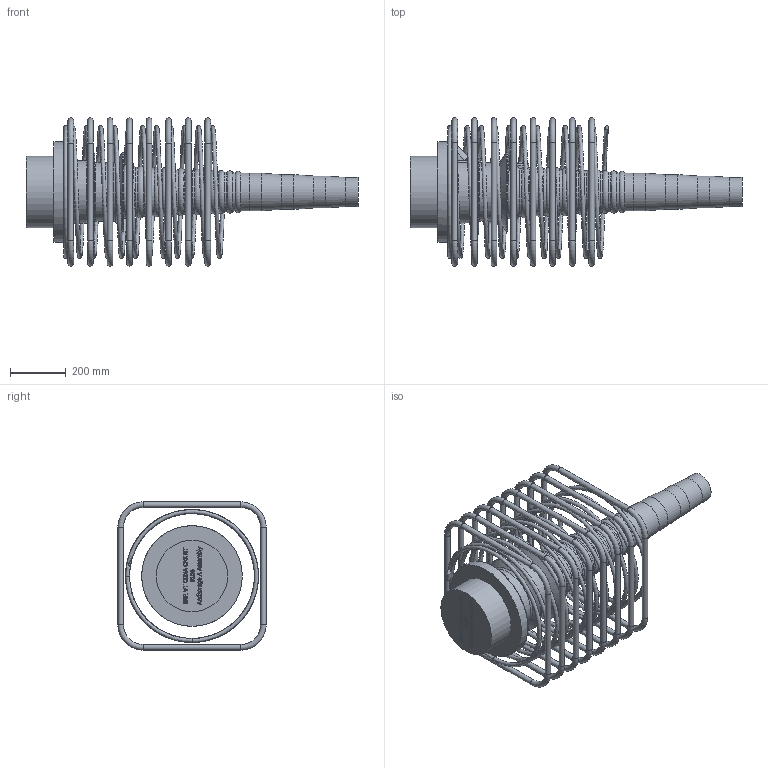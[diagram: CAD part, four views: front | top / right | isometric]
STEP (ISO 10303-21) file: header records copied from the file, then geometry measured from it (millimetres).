
FILE_DESCRIPTION(/* description */ (''),/* implementation_level */ '2;1');
FILE_NAME(/* name */ 'Z:\04 Publications\05 Give-out\BBR\6_3D_Models\BBR VT CONA CMI\BBR VT CONA CMI BT\03106\BBR VT CONA CMI BT 3106_Anchorage A Assembly_CS-34,28.stp',/* time_stamp */ '2017-05-05T10:41:04+02:00',/* author */ ('IP'),/* organization */ (''),/* preprocessor_version */ 'ST-DEVELOPER v16.1',/* originating_system */ 'Autodesk Inventor 2016',/* authorisation */ '');
FILE_SCHEMA (('AUTOMOTIVE_DESIGN { 1 0 10303 214 3 1 1 }'));
Length unit declared in the file: millimetre
Products named in the file (1): BBR VT CONA CMI BT 3106_Anchorage A Assembly_CS-34,28
Bounding box: 1187.27 x 530 x 530 mm (x, y, z)
Volume: 38592448.6 mm3; surface area: 2654672.5 mm2
Topology: 10 solids, 10 shells, 805 faces, 2074 edges, 1325 vertices
Faces by surface type: plane 326, bspline 311, torus 97, cylinder 52, cone 17, sphere 2
Full cylindrical faces by diameter (mm): 20 x32, 34 x1, 57 x1, 104 x1, 114 x1, 124 x1, 134 x1, 208 x1, 255 x1, 279 x1, 283 x1, 360 x1
Entity records: 31781 total; most frequent: CARTESIAN_POINT 14028, ORIENTED_EDGE 3834, DIRECTION 2485, EDGE_CURVE 1917, VERTEX_POINT 1317, LINE 1081, VECTOR 1081, EDGE_LOOP 1008
